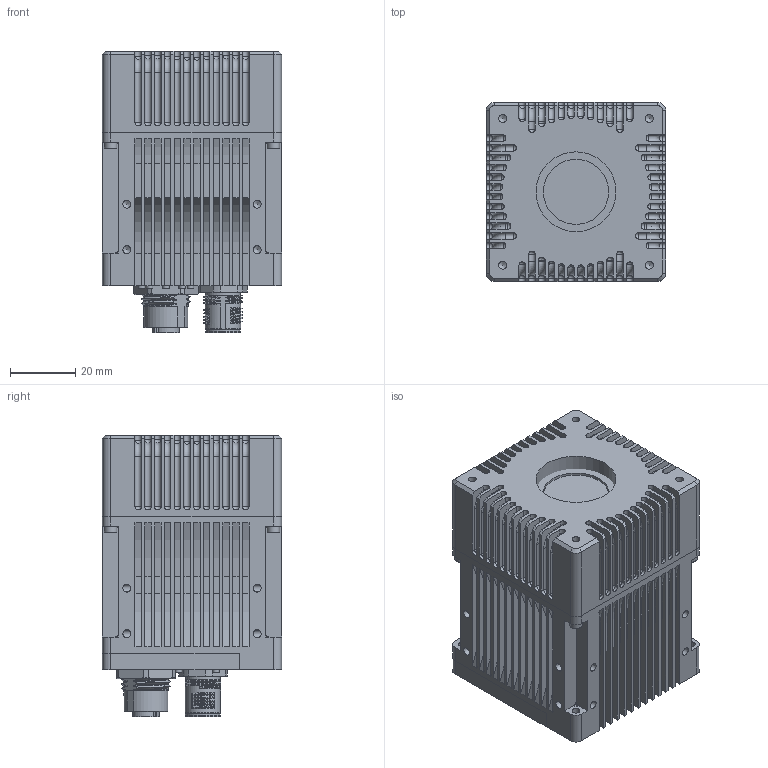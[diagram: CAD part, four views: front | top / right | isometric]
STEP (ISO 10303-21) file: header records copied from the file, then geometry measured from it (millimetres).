
FILE_DESCRIPTION(/* description */ ('C6-1280_2040-SX-GigE'),/* implementation_level */ '2;1');
FILE_NAME(/* name */ 'C:\Vault\Designs\02_3D\Kameras\C6\Public\C6-1280_2040-SX-GigE_R1.stp',/* time_stamp */ '2023-09-28T11:37:08+02:00',/* author */ ('Sergej.Hartung'),/* organization */ ('Automarion Technology GmbH'),/* preprocessor_version */ 'ST-DEVELOPER v18.1',/* originating_system */ 'Autodesk Inventor 2022',/* authorisation */ '');
FILE_SCHEMA (('AUTOMOTIVE_DESIGN { 1 0 10303 214 3 1 1 }'));
Products named in the file (16): C6-1280_2040-SX-GigE; 102903401-009_a_Public; 602344726_Public; 102903401-002_Public; DIN 912 - M2 x 6; SACC-DSI-MS-17CON-M12 SCO SH_1437119-02; SACC-DSI-MS-17CON-M12 SCO SH_1437119_Stecker; SACC-DSI-MS-17CON-M12 SCO SH_1437119_Mutter; SACC-DSI-MS-17CON-M12 SCO SH_1437119_Pins; SACC-DSI-MS-17CON-M12 SCO SH_1437119_Kunststoffeinsatz; SACC-DSI-FS-8CON-L180_SCO SH_1553860-02; SACC-DSI-FS-8CON-L180_SCO SH_1553860_Stecker; SACC-DSI-FS-8CON-L180_SCO SH_1553860_Mutter; SACC-DSI-FS-8CON-L180_SCO SH_1553860_Kunststoffeinsatz; C-Mount-Bandpassfilter-BP660-25,4; 1292.6001
Assembly tree (26 placements, depth 3):
  C6-1280_2040-SX-GigE
    102903401-009_a_Public
    602344726_Public
    102903401-002_Public
    DIN 912 - M2 x 6  x8
    SACC-DSI-MS-17CON-M12 SCO SH_1437119-02
      SACC-DSI-MS-17CON-M12 SCO SH_1437119_Stecker
      SACC-DSI-MS-17CON-M12 SCO SH_1437119_Mutter
      SACC-DSI-MS-17CON-M12 SCO SH_1437119_Pins
      SACC-DSI-MS-17CON-M12 SCO SH_1437119_Kunststoffeinsatz
    SACC-DSI-FS-8CON-L180_SCO SH_1553860-02
      SACC-DSI-FS-8CON-L180_SCO SH_1553860_Stecker
      SACC-DSI-FS-8CON-L180_SCO SH_1553860_Mutter
      SACC-DSI-FS-8CON-L180_SCO SH_1553860_Kunststoffeinsatz
    C-Mount-Bandpassfilter-BP660-25,4
    1292.6001  x5
Bounding box: 55 x 55 x 86.55 mm (x, y, z)
Volume: 178421.1 mm3; surface area: 63940.8 mm2
Topology: 44 solids, 58 shells, 2164 faces, 5412 edges, 3481 vertices
Faces by surface type: plane 990, cylinder 660, bspline 179, sphere 130, torus 104, cone 101
Full cylindrical faces by diameter (mm): 0.217 x1, 0.6 x25, 0.63 x34, 0.9 x8, 1 x10, 1.1 x17, 1.2 x17, 1.5 x5, 1.567 x16, 1.6 x5, 2 x21, 2.2 x4, 2.459 x22, 3.8 x8, 4 x4, 5 x2, 7.7 x1, 8.25 x2, 8.3 x1, 8.7 x1, 10.5 x1, 10.7 x3, 10.917 x2, 12 x1, 12.2 x1, 12.9 x2, 13.9 x1, 14 x1, 14.5 x1, 18 x1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
Entity records: 97128 total; most frequent: CARTESIAN_POINT 47061, ORIENTED_EDGE 10080, DIRECTION 9983, EDGE_CURVE 5040, AXIS2_PLACEMENT_3D 3566, VERTEX_POINT 3293, LINE 2851, VECTOR 2851
